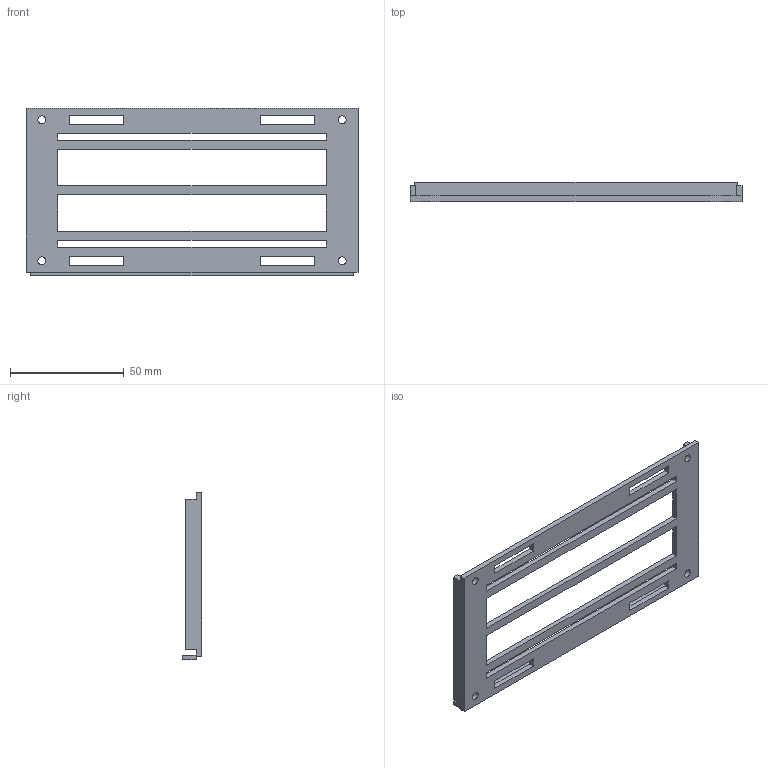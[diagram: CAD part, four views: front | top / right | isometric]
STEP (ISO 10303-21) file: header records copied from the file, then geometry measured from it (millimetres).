
FILE_DESCRIPTION(('Open CASCADE Model'),'2;1');
FILE_NAME('Open CASCADE Shape Model','2026-08-16T15:13:29',('Author'),( 'Open CASCADE'),'Open CASCADE STEP processor 7.9','Open CASCADE 7.9' ,'Unknown');
FILE_SCHEMA(('AUTOMOTIVE_DESIGN { 1 0 10303 214 1 1 1 1 }'));
Length unit declared in the file: millimetre
Products named in the file (1): Open CASCADE STEP translator 7.9 5
Bounding box: 146 x 8.4 x 73.5 mm (x, y, z)
Volume: 16722.9 mm3; surface area: 18737.7 mm2
Topology: 1 solids, 1 shells, 56 faces, 162 edges, 108 vertices
Faces by surface type: plane 52, cylinder 4
Full cylindrical faces by diameter (mm): 3.5 x4
Entity records: 3887 total; most frequent: CARTESIAN_POINT 742, DIRECTION 517, LINE 379, VECTOR 379, ORIENTED_EDGE 324, PCURVE 324, DEFINITIONAL_REPRESENTATION 324, EDGE_CURVE 162
